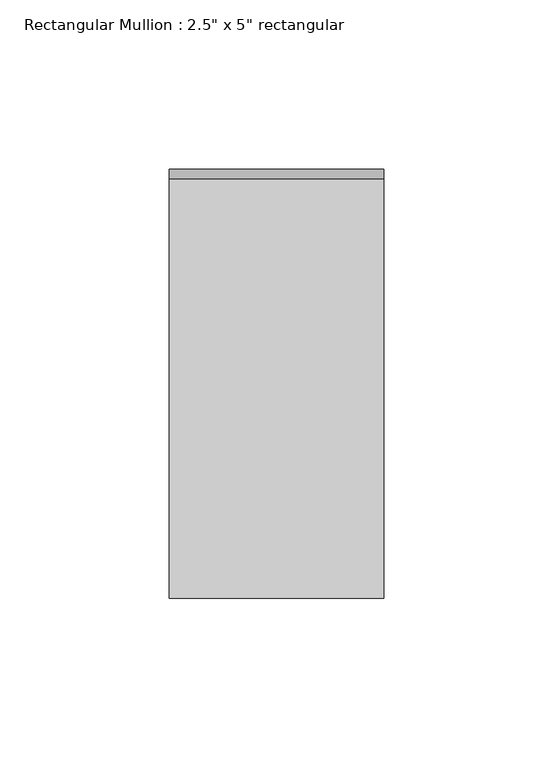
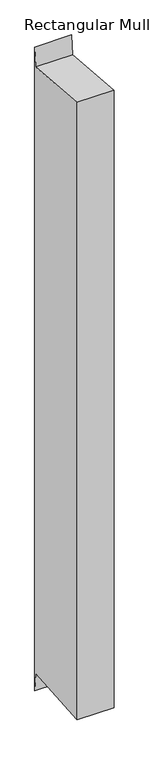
"""IFC4 building model written with IfcOpenShell, lengths in millimetres: member geometry."""

from ifc_helpers import new_model, si_unit, frame, origin, place, context, project, spatial, polyline, outline, extrude, source, transform, mapped, element, save


def member_68fe8548(model_context):
    return source(origin(), model_context, "Body", "SweptSolid", [
        extrude(outline(polyline([(-63.5, 5.152946), (60.6612211, -5.1353461), (63.5, 29.1236206), (63.5, -1144.68945), (60.6612211, -1110.4304833), (-63.5, -1120.7187754), (-63.5, 5.152946)])), frame((-63.5, 0.0, 0.0), z_axis=(1.0, 0.0, 0.0), x_axis=(0.0, 1.0, 0.0)), (0.0, 0.0, 1.0), 63.5),
    ])


if __name__ == "__main__":
    model = new_model("IFC4")
    model_context = context("Model", 3, world=origin())
    ifc_project = project(units=[si_unit("LENGTHUNIT", "METRE", prefix="MILLI")], contexts=[model_context])
    site = spatial("IfcSite", under=ifc_project)
    building = spatial("IfcBuilding", under=site)
    placement = place(None, origin())
    member_shape = member_68fe8548(model_context)
    element("IfcMember", 1, ObjectType="Rectangular Mullion : 2.5\" x 5\" rectangular", at=placement, inside=building, context=model_context, shape_type="MappedRepresentation", body=[
        mapped(member_shape, transform((0.0, 0.0, 0.0), x_axis=(1.0, 0.0, 0.0), y_axis=(0.0, 1.0, 0.0), z_axis=(0.0, 0.0, 1.0))),
    ])
    save(model, "model.ifc")
